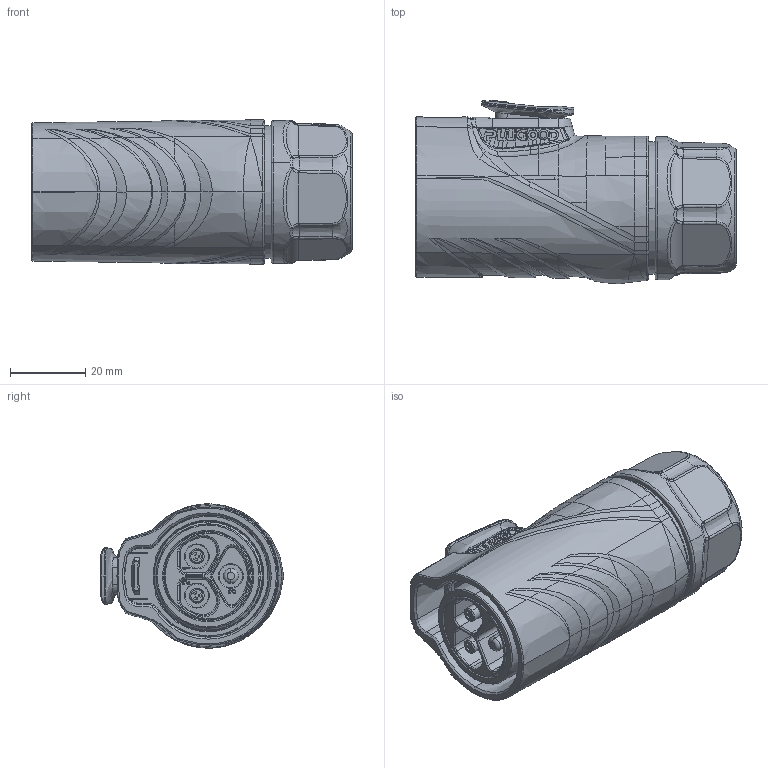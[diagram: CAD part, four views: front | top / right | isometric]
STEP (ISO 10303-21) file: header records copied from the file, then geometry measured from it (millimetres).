
FILE_DESCRIPTION (( 'STEP AP203' ), '1' );
FILE_NAME ('PLG28 脣芛蚾饜极-3D.STEP', '2025-06-17T09:26:16', ( '' ), ( '' ), 'SwSTEP 2.0', 'SolidWorks 2015', '' );
FILE_SCHEMA (( 'CONFIG_CONTROL_DESIGN' ));
Length unit declared in the file: millimetre
Products named in the file (1): PLG28 脣芛蚾饜极-3D
Bounding box: 85 x 48.66 x 38.3 mm (x, y, z)
Volume: 86262.9 mm3; surface area: 27337.2 mm2
Topology: 3 solids, 5 shells, 1472 faces, 3874 edges, 2437 vertices
Faces by surface type: bspline 677, plane 353, cylinder 252, torus 104, cone 86
Entity records: 134316 total; most frequent: CARTESIAN_POINT 103971, ORIENTED_EDGE 7730, DIRECTION 4156, EDGE_CURVE 3865, VERTEX_POINT 2438, B_SPLINE_CURVE_WITH_KNOTS 1968, AXIS2_PLACEMENT_3D 1572, EDGE_LOOP 1519
